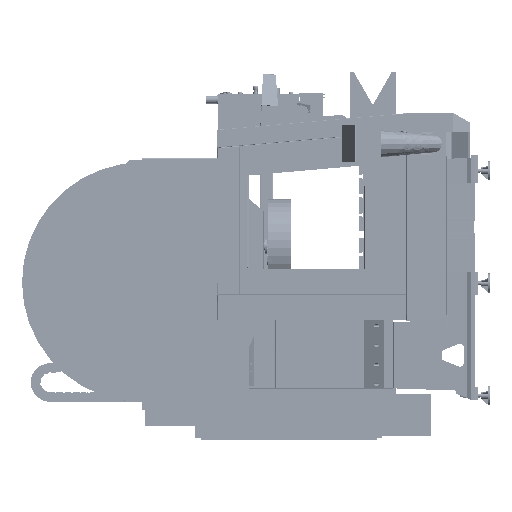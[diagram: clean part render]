
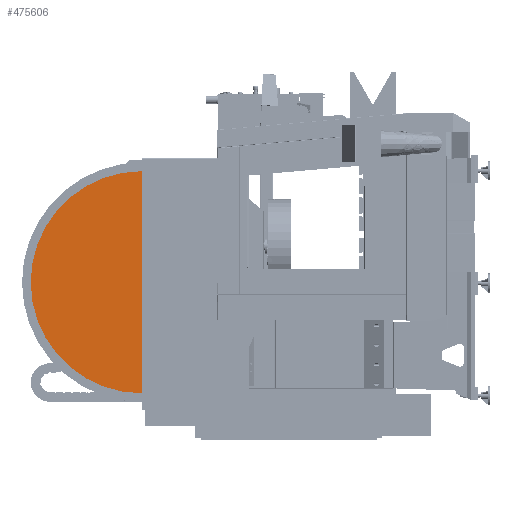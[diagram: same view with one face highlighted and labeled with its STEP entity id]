
A CAD part, left-side view. The second image highlights one B-rep face of the part: STEP entity #475606.
In plain terms, the highlighted planar face has unit normal (-1, 0, 0).
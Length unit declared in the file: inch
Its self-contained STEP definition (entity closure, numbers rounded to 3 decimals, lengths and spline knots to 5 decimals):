
#933 = VERTEX_POINT ( 'NONE', #236347 ) ;
#3982 = CARTESIAN_POINT ( 'NONE',  ( -26.70729, 69.45251, 1.62384 ) ) ;
#11106 = DIRECTION ( 'NONE',  ( 1., 0., 0. ) ) ;
#11952 = LINE ( 'NONE', #201182, #331709 ) ;
#13418 = CARTESIAN_POINT ( 'NONE',  ( -26.70729, 69.51802, 10.7217 ) ) ;
#14078 = ORIENTED_EDGE ( 'NONE', *, *, #209272, .T. ) ;
#46309 = LINE ( 'NONE', #214480, #464520 ) ;
#52360 = DIRECTION ( 'NONE',  ( 1., 0., 0. ) ) ;
#52585 = DIRECTION ( 'NONE',  ( 0., 0., -1. ) ) ;
#57487 = DIRECTION ( 'NONE',  ( 0., -1., 0. ) ) ;
#59295 = ORIENTED_EDGE ( 'NONE', *, *, #505457, .T. ) ;
#62654 = ORIENTED_EDGE ( 'NONE', *, *, #106919, .T. ) ;
#83302 = LINE ( 'NONE', #241228, #239903 ) ;
#85664 = ORIENTED_EDGE ( 'NONE', *, *, #311996, .F. ) ;
#89330 = VERTEX_POINT ( 'NONE', #296707 ) ;
#90286 = EDGE_CURVE ( 'NONE', #396788, #396175, #146549, .T. ) ;
#94640 = VERTEX_POINT ( 'NONE', #235418 ) ;
#97196 = EDGE_CURVE ( 'NONE', #933, #448528, #489328, .T. ) ;
#105159 = DIRECTION ( 'NONE',  ( 0., -0.029, 1. ) ) ;
#106919 = EDGE_CURVE ( 'NONE', #94640, #232696, #224330, .T. ) ;
#109940 = AXIS2_PLACEMENT_3D ( 'NONE', #365817, #11106, #52585 ) ;
#119845 = ORIENTED_EDGE ( 'NONE', *, *, #378572, .T. ) ;
#122212 = FACE_OUTER_BOUND ( 'NONE', #448177, .T. ) ;
#141416 = CARTESIAN_POINT ( 'NONE',  ( -26.70729, 69.45302, 1.6067 ) ) ;
#143837 = CIRCLE ( 'NONE', #433169, 28.50873 ) ;
#143853 = VECTOR ( 'NONE', #377864, 39.37008 ) ;
#146549 = LINE ( 'NONE', #141416, #344438 ) ;
#201182 = CARTESIAN_POINT ( 'NONE',  ( -26.70729, 69.45251, 1.62384 ) ) ;
#204260 = DIRECTION ( 'NONE',  ( 0., -1., 0.029 ) ) ;
#209272 = EDGE_CURVE ( 'NONE', #89330, #368230, #217973, .T. ) ;
#209611 = AXIS2_PLACEMENT_3D ( 'NONE', #435438, #355241, #233601 ) ;
#212028 = CARTESIAN_POINT ( 'NONE',  ( -26.70729, 69.46364, 1.60639 ) ) ;
#214480 = CARTESIAN_POINT ( 'NONE',  ( -26.70729, 69.45302, 1.6067 ) ) ;
#217789 = LINE ( 'NONE', #492198, #416681 ) ;
#217973 = LINE ( 'NONE', #412059, #364766 ) ;
#218856 = CARTESIAN_POINT ( 'NONE',  ( -26.70729, 50.27715, 1.6307 ) ) ;
#224330 = LINE ( 'NONE', #252943, #437530 ) ;
#232696 = VERTEX_POINT ( 'NONE', #218856 ) ;
#233601 = DIRECTION ( 'NONE',  ( 0., 0., 1. ) ) ;
#235418 = CARTESIAN_POINT ( 'NONE',  ( -26.70729, 50.27715, 1.6905 ) ) ;
#236347 = CARTESIAN_POINT ( 'NONE',  ( -26.70729, 69.53682, -17.78703 ) ) ;
#239903 = VECTOR ( 'NONE', #399130, 39.37008 ) ;
#240669 = ORIENTED_EDGE ( 'NONE', *, *, #426887, .T. ) ;
#241228 = CARTESIAN_POINT ( 'NONE',  ( -26.70729, 50.27715, 1.6067 ) ) ;
#252943 = CARTESIAN_POINT ( 'NONE',  ( -26.70729, 50.27715, 1.6905 ) ) ;
#253159 = ORIENTED_EDGE ( 'NONE', *, *, #342251, .T. ) ;
#256356 = EDGE_CURVE ( 'NONE', #933, #268634, #143837, .T. ) ;
#261704 = DIRECTION ( 'NONE',  ( 0., -0.999, 0.048 ) ) ;
#268634 = VERTEX_POINT ( 'NONE', #279177 ) ;
#279177 = CARTESIAN_POINT ( 'NONE',  ( -26.70729, 69.51802, 39.23043 ) ) ;
#291961 = CARTESIAN_POINT ( 'NONE',  ( -26.70729, 69.45302, 1.6067 ) ) ;
#293102 = ORIENTED_EDGE ( 'NONE', *, *, #256356, .F. ) ;
#296707 = CARTESIAN_POINT ( 'NONE',  ( -26.70729, 50.27715, 1.6067 ) ) ;
#311996 = EDGE_CURVE ( 'NONE', #268634, #368230, #490272, .T. ) ;
#316093 = LINE ( 'NONE', #403941, #438456 ) ;
#320255 = CARTESIAN_POINT ( 'NONE',  ( -26.70729, 69.53682, 1.60286 ) ) ;
#323715 = DIRECTION ( 'NONE',  ( 0., -1., 0. ) ) ;
#331709 = VECTOR ( 'NONE', #369193, 39.37008 ) ;
#334982 = ORIENTED_EDGE ( 'NONE', *, *, #369051, .T. ) ;
#342251 = EDGE_CURVE ( 'NONE', #448528, #492000, #217789, .T. ) ;
#344438 = VECTOR ( 'NONE', #105159, 39.37008 ) ;
#355241 = DIRECTION ( 'NONE',  ( -1., 0., 0. ) ) ;
#364766 = VECTOR ( 'NONE', #57487, 39.37008 ) ;
#365817 = CARTESIAN_POINT ( 'NONE',  ( -26.70729, 69.51802, 10.7217 ) ) ;
#368230 = VERTEX_POINT ( 'NONE', #491590 ) ;
#369051 = EDGE_CURVE ( 'NONE', #492000, #396788, #46309, .T. ) ;
#369193 = DIRECTION ( 'NONE',  ( 0., -0.05, 0.999 ) ) ;
#377864 = DIRECTION ( 'NONE',  ( 0., 0., 1. ) ) ;
#378572 = EDGE_CURVE ( 'NONE', #383174, #94640, #316093, .T. ) ;
#383174 = VERTEX_POINT ( 'NONE', #390769 ) ;
#390769 = CARTESIAN_POINT ( 'NONE',  ( -26.70729, 69.44918, 1.6905 ) ) ;
#396175 = VERTEX_POINT ( 'NONE', #3982 ) ;
#396788 = VERTEX_POINT ( 'NONE', #291961 ) ;
#398863 = CARTESIAN_POINT ( 'NONE',  ( -26.70729, 69.53682, 0.8067 ) ) ;
#399130 = DIRECTION ( 'NONE',  ( 0., 0., -1. ) ) ;
#403941 = CARTESIAN_POINT ( 'NONE',  ( -26.70729, 38.87362, 1.6905 ) ) ;
#410805 = DIRECTION ( 'NONE',  ( 0., 0., -1. ) ) ;
#412059 = CARTESIAN_POINT ( 'NONE',  ( -26.70729, 38.93342, 1.6067 ) ) ;
#416681 = VECTOR ( 'NONE', #261704, 39.37008 ) ;
#426887 = EDGE_CURVE ( 'NONE', #232696, #89330, #83302, .T. ) ;
#430326 = PLANE ( 'NONE',  #209611 ) ;
#433169 = AXIS2_PLACEMENT_3D ( 'NONE', #13418, #52360, #489782 ) ;
#435438 = CARTESIAN_POINT ( 'NONE',  ( -26.70729, 69.51802, 10.7217 ) ) ;
#437530 = VECTOR ( 'NONE', #410805, 39.37008 ) ;
#438456 = VECTOR ( 'NONE', #323715, 39.37008 ) ;
#444412 = ORIENTED_EDGE ( 'NONE', *, *, #90286, .T. ) ;
#448177 = EDGE_LOOP ( 'NONE', ( #293102, #511892, #253159, #334982, #444412, #59295, #119845, #62654, #240669, #14078, #85664 ) ) ;
#448528 = VERTEX_POINT ( 'NONE', #320255 ) ;
#464520 = VECTOR ( 'NONE', #204260, 39.37008 ) ;
#475606 = ADVANCED_FACE ( 'NONE', ( #122212 ), #430326, .T. ) ;
#489328 = LINE ( 'NONE', #398863, #143853 ) ;
#489782 = DIRECTION ( 'NONE',  ( 0., 0., -1. ) ) ;
#490272 = CIRCLE ( 'NONE', #109940, 28.50873 ) ;
#491590 = CARTESIAN_POINT ( 'NONE',  ( -26.70729, 42.50571, 1.6067 ) ) ;
#492000 = VERTEX_POINT ( 'NONE', #212028 ) ;
#492198 = CARTESIAN_POINT ( 'NONE',  ( -26.70729, 69.53682, 1.60286 ) ) ;
#505457 = EDGE_CURVE ( 'NONE', #396175, #383174, #11952, .T. ) ;
#511892 = ORIENTED_EDGE ( 'NONE', *, *, #97196, .T. ) ;
